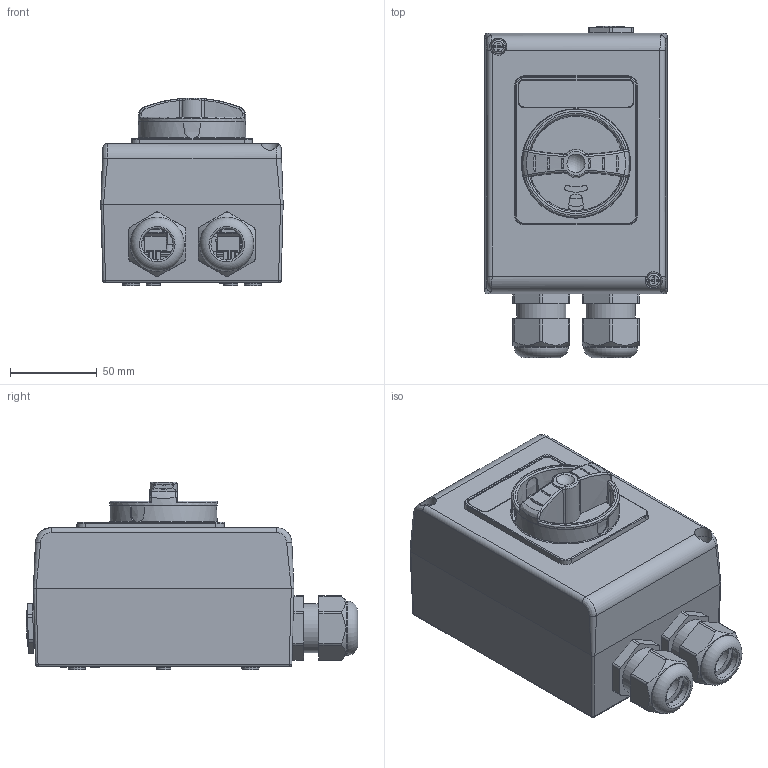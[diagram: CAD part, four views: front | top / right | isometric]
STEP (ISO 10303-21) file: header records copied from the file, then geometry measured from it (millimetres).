
FILE_DESCRIPTION(/* description */ (''),/* implementation_level */ '2;1');
FILE_NAME(/* name */ '4003198.stp',/* time_stamp */ '2019-12-16T08:06:06+01:00',/* author */ (''),/* organization */ (''),/* preprocessor_version */ 'ST-DEVELOPER v16.7',/* originating_system */ 'SIEMENS PLM Software NX 1892',/* authorisation */ '');
FILE_SCHEMA (('AUTOMOTIVE_DESIGN { 1 0 10303 214 3 1 1 1 }'));
Products named in the file (1): BSOM177C81C7lg2d
Bounding box: 105 x 190.87 x 108.15 mm (x, y, z)
Volume: 360182.3 mm3; surface area: 243862.2 mm2
Topology: 14 solids, 14 shells, 4056 faces, 10598 edges, 6752 vertices
Faces by surface type: plane 2112, cylinder 871, extrusion 415, bspline 231, cone 200, torus 139, sphere 79, revolution 9
Full cylindrical faces by diameter (mm): 2.393 x3, 2.991 x3, 3 x3, 3.19 x2, 3.3 x2, 4 x1, 4.3 x2, 5 x6, 5.4 x2, 6 x6, 7.577 x1, 8 x2, 9.95 x2, 10 x4, 10.2 x1, 15 x1, 18 x1, 18.2 x2, 18.4 x2, 18.5 x1, 20 x1, 25 x4, 26.2 x2, 27 x2, 28.4 x2, 31.1 x2
Entity records: 155779 total; most frequent: CARTESIAN_POINT 60060, ORIENTED_EDGE 20524, DIRECTION 18199, EDGE_CURVE 10262, VERTEX_POINT 6654, VECTOR 6252, AXIS2_PLACEMENT_3D 5969, LINE 5837
